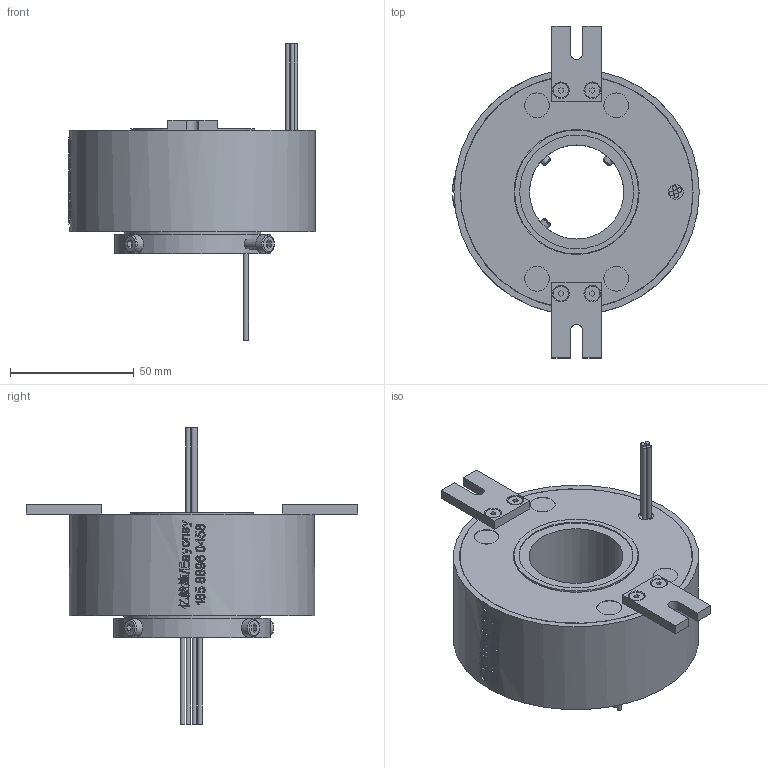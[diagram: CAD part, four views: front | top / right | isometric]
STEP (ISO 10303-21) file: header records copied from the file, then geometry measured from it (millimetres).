
FILE_DESCRIPTION(/* description */ (''),/* implementation_level */ '2;1');
FILE_NAME(/* name */ 'YDS3899-0410-3D模型.stp',/* time_stamp */ '2025-09-03T15:26:38+08:00',/* author */ (''),/* organization */ (''),/* preprocessor_version */ 'ST-DEVELOPER v16.7',/* originating_system */ 'SIEMENS PLM Software NX 12.0',/* authorisation */ '');
FILE_SCHEMA (('AUTOMOTIVE_DESIGN { 1 0 10303 214 3 1 1 1 }'));
Length unit declared in the file: millimetre
Products named in the file (1): Admi1DD8882Fzmhu
Bounding box: 99.5 x 134 x 119.6 mm (x, y, z)
Volume: 292018.3 mm3; surface area: 40709.1 mm2
Topology: 1 solids, 2 shells, 918 faces, 2446 edges, 1627 vertices
Faces by surface type: extrusion 452, plane 353, cylinder 68, bspline 33, cone 8, torus 4
Full cylindrical faces by diameter (mm): 1.8 x8, 3.4 x1, 4 x7, 6 x5, 7 x4, 10 x4, 38 x1, 46 x1, 50 x2, 50.5 x2, 55 x2, 55.1 x1, 63 x1, 93.9 x2, 94 x2, 99 x1
Entity records: 36371 total; most frequent: CARTESIAN_POINT 17053, ORIENTED_EDGE 4748, EDGE_CURVE 2374, DIRECTION 2214, B_SPLINE_CURVE_WITH_KNOTS 2203, VERTEX_POINT 1611, EDGE_LOOP 1077, ADVANCED_FACE 918
